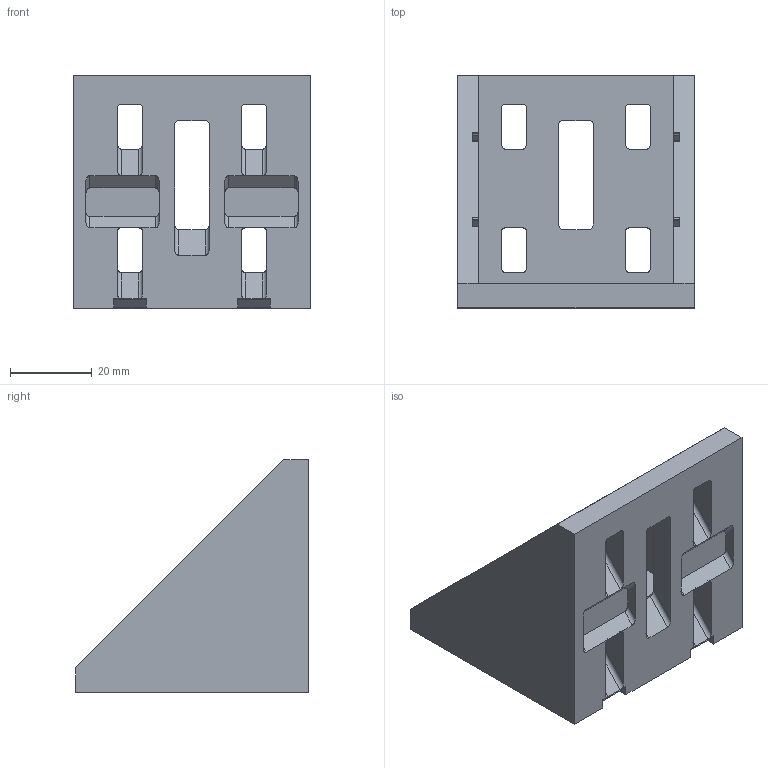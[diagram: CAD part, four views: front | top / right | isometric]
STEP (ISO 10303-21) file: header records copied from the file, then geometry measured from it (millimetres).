
FILE_DESCRIPTION (( 'STEP AP214' ), '1' );
FILE_NAME ('SNSD.30.52.31. Óãëîâîé àëþìèíèåâûé ñîåäèíèòåëü 60õ60, ïàç 8(H11).STEP', '2015-01-13T11:37:48', ( 'XTreme.ws' ), ( 'XTreme.ws' ), 'SwSTEP 2.0', 'SolidWorks 2014', '' );
FILE_SCHEMA (( 'AUTOMOTIVE_DESIGN' ));
Length unit declared in the file: millimetre
Products named in the file (2): SNSD.30.52.31. Óãëîâîé àëþìèíèåâûé ñîåäèíèòåëü 60õ60, ïàç 8(H11)
Bounding box: 58 x 57 x 57 mm (x, y, z)
Volume: 41586.5 mm3; surface area: 20406.1 mm2
Topology: 1 solids, 1 shells, 178 faces, 524 edges, 340 vertices
Faces by surface type: plane 98, cylinder 80
Entity records: 5945 total; most frequent: CARTESIAN_POINT 1272, ORIENTED_EDGE 1048, DIRECTION 896, EDGE_CURVE 524, VECTOR 360, LINE 360, VERTEX_POINT 340, AXIS2_PLACEMENT_3D 268
